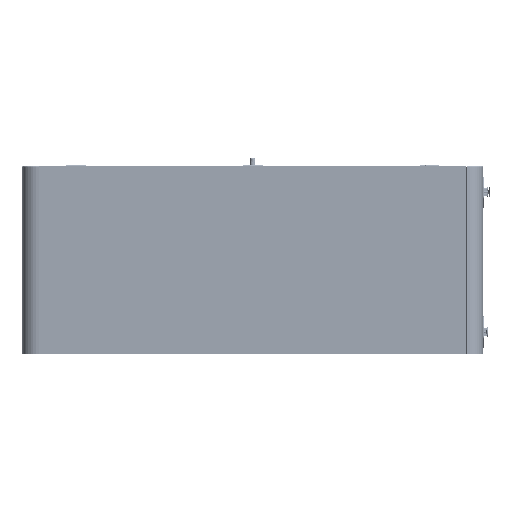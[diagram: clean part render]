
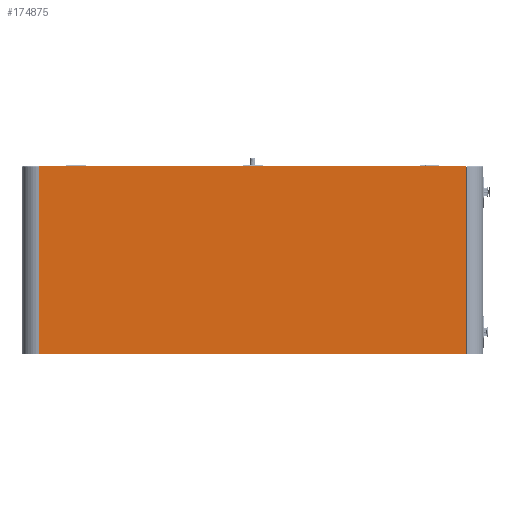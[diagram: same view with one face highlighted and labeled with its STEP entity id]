
A CAD part, left-side view. The second image highlights one B-rep face of the part: STEP entity #174875.
In plain terms, the highlighted planar face has unit normal (-1, 0, 0).
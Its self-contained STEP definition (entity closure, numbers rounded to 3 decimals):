
#7567=FACE_BOUND('',#30626,.T.);
#7568=FACE_BOUND('',#30627,.T.);
#11937=PLANE('',#191378);
#19528=FACE_OUTER_BOUND('',#30625,.T.);
#30625=EDGE_LOOP('',(#144973,#144974,#144975,#144976));
#30626=EDGE_LOOP('',(#144977));
#30627=EDGE_LOOP('',(#144978));
#45150=LINE('',#296123,#61381);
#45151=LINE('',#296125,#61382);
#45152=LINE('',#296127,#61383);
#45153=LINE('',#296128,#61384);
#61381=VECTOR('',#226741,1000.);
#61382=VECTOR('',#226742,1000.);
#61383=VECTOR('',#226743,1000.);
#61384=VECTOR('',#226744,1000.);
#71244=CIRCLE('',#191263,1.);
#71246=CIRCLE('',#191266,1.);
#83280=VERTEX_POINT('',#295275);
#83282=VERTEX_POINT('',#295281);
#83358=VERTEX_POINT('',#296121);
#83359=VERTEX_POINT('',#296122);
#83360=VERTEX_POINT('',#296124);
#83361=VERTEX_POINT('',#296126);
#104862=EDGE_CURVE('',#83280,#83280,#71244,.T.);
#104865=EDGE_CURVE('',#83282,#83282,#71246,.T.);
#104971=EDGE_CURVE('',#83358,#83359,#45150,.T.);
#104972=EDGE_CURVE('',#83360,#83358,#45151,.T.);
#104973=EDGE_CURVE('',#83361,#83360,#45152,.T.);
#104974=EDGE_CURVE('',#83359,#83361,#45153,.T.);
#144973=ORIENTED_EDGE('',*,*,#104971,.F.);
#144974=ORIENTED_EDGE('',*,*,#104972,.F.);
#144975=ORIENTED_EDGE('',*,*,#104973,.F.);
#144976=ORIENTED_EDGE('',*,*,#104974,.F.);
#144977=ORIENTED_EDGE('',*,*,#104865,.T.);
#144978=ORIENTED_EDGE('',*,*,#104862,.T.);
#174875=ADVANCED_FACE('',(#19528,#7567,#7568),#11937,.F.);
#191263=AXIS2_PLACEMENT_3D('',#295276,#226448,#226449);
#191266=AXIS2_PLACEMENT_3D('',#295282,#226455,#226456);
#191378=AXIS2_PLACEMENT_3D('',#296120,#226739,#226740);
#226448=DIRECTION('center_axis',(1.,0.,0.));
#226449=DIRECTION('ref_axis',(0.,0.,
1.));
#226455=DIRECTION('center_axis',(1.,0.,0.));
#226456=DIRECTION('ref_axis',(0.,0.,
1.));
#226739=DIRECTION('center_axis',(1.,0.,0.));
#226740=DIRECTION('ref_axis',(0.,0.,
1.));
#226741=DIRECTION('',(0.,0.,1.));
#226742=DIRECTION('',(0.,1.,0.));
#226743=DIRECTION('',(0.,0.,-1.));
#226744=DIRECTION('',(0.,-1.,0.));
#295275=CARTESIAN_POINT('',(-80.,209.5,374.505));
#295276=CARTESIAN_POINT('Origin',(-80.,209.5,375.505));
#295281=CARTESIAN_POINT('',(-80.,729.5,374.505));
#295282=CARTESIAN_POINT('Origin',(-80.,729.5,375.505));
#296120=CARTESIAN_POINT('Origin',(-80.,2128.,900.));
#296121=CARTESIAN_POINT('',(-80.,2128.,0.));
#296122=CARTESIAN_POINT('',(-80.,2128.,900.));
#296123=CARTESIAN_POINT('',(-80.,2128.,0.));
#296124=CARTESIAN_POINT('',(-80.,80.,0.));
#296125=CARTESIAN_POINT('',(-80.,80.,0.));
#296126=CARTESIAN_POINT('',(-80.,80.,900.));
#296127=CARTESIAN_POINT('',(-80.,80.,900.));
#296128=CARTESIAN_POINT('',(-80.,2128.,900.));
